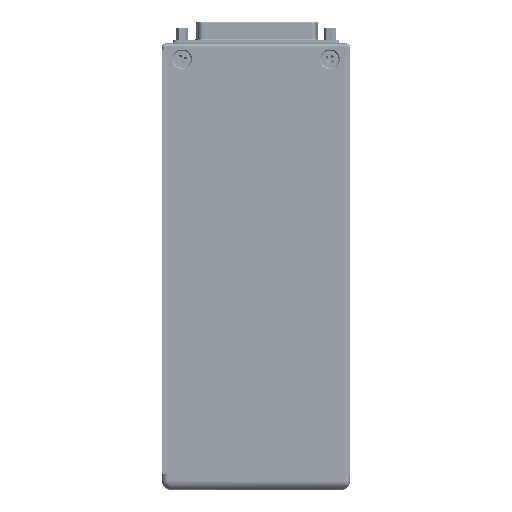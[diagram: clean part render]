
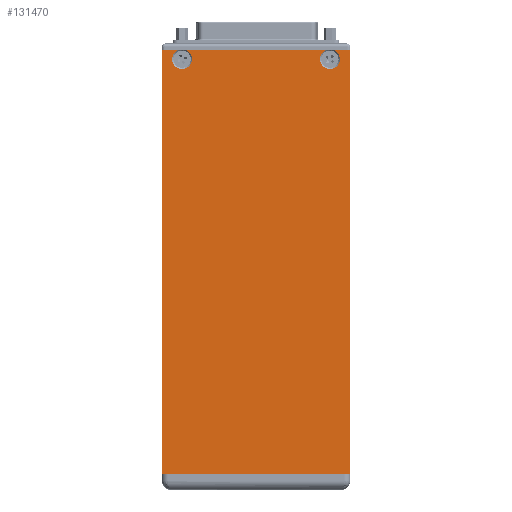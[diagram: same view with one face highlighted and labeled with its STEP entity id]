
A CAD part, front view. The second image highlights one B-rep face of the part: STEP entity #131470.
In plain terms, the highlighted planar face has unit normal (0, -1, 0).
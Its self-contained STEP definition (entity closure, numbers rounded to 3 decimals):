
#855 = DIRECTION ( 'NONE',  ( 0., 1., 0. ) ) ;
#1246 = ORIENTED_EDGE ( 'NONE', *, *, #323080, .T. ) ;
#5818 = EDGE_CURVE ( 'NONE', #122456, #293544, #230319, .T. ) ;
#13270 = CARTESIAN_POINT ( 'NONE',  ( 23.5, -10., -3. ) ) ;
#15506 = DIRECTION ( 'NONE',  ( 0., 1., 0. ) ) ;
#16522 = CARTESIAN_POINT ( 'NONE',  ( -30., -10., -135. ) ) ;
#19495 = CARTESIAN_POINT ( 'NONE',  ( -30., -10., 0. ) ) ;
#22818 = ORIENTED_EDGE ( 'NONE', *, *, #188750, .T. ) ;
#23952 = DIRECTION ( 'NONE',  ( -1., 0., 0. ) ) ;
#31147 = EDGE_LOOP ( 'NONE', ( #215637, #146915, #1246, #264074, #271210, #22818, #292177, #241371, #93010, #183903 ) ) ;
#36172 = CARTESIAN_POINT ( 'NONE',  ( -23.5, -10., -3. ) ) ;
#37648 = CIRCLE ( 'NONE', #329702, 3.15 ) ;
#40105 = CIRCLE ( 'NONE', #120653, 3.15 ) ;
#40615 = CARTESIAN_POINT ( 'NONE',  ( 24.46, -10., 0. ) ) ;
#43380 = DIRECTION ( 'NONE',  ( 0., 1., 0. ) ) ;
#44368 = DIRECTION ( 'NONE',  ( 0., 0., -1. ) ) ;
#50013 = DIRECTION ( 'NONE',  ( 0., 0., -1. ) ) ;
#58246 = EDGE_CURVE ( 'NONE', #303286, #73529, #306697, .T. ) ;
#63504 = CARTESIAN_POINT ( 'NONE',  ( -30., -10., 0. ) ) ;
#66874 = CARTESIAN_POINT ( 'NONE',  ( -30., -10., -135. ) ) ;
#67368 = EDGE_CURVE ( 'NONE', #211682, #206394, #40105, .T. ) ;
#68338 = VERTEX_POINT ( 'NONE', #328501 ) ;
#71205 = CARTESIAN_POINT ( 'NONE',  ( -24.46, -10., 0. ) ) ;
#73529 = VERTEX_POINT ( 'NONE', #40615 ) ;
#75231 = CARTESIAN_POINT ( 'NONE',  ( -22.54, -10., 0. ) ) ;
#78028 = CARTESIAN_POINT ( 'NONE',  ( 23.5, -10., -6.15 ) ) ;
#86186 = FACE_OUTER_BOUND ( 'NONE', #31147, .T. ) ;
#86287 = VERTEX_POINT ( 'NONE', #63504 ) ;
#93010 = ORIENTED_EDGE ( 'NONE', *, *, #142050, .T. ) ;
#96862 = CARTESIAN_POINT ( 'NONE',  ( -30., -10., 0. ) ) ;
#99401 = CARTESIAN_POINT ( 'NONE',  ( 30., -10., 0. ) ) ;
#105147 = DIRECTION ( 'NONE',  ( 0., 0., -1. ) ) ;
#105534 = AXIS2_PLACEMENT_3D ( 'NONE', #204988, #855, #105147 ) ;
#116152 = VECTOR ( 'NONE', #23952, 1000. ) ;
#118708 = DIRECTION ( 'NONE',  ( 0., 0., -1. ) ) ;
#120653 = AXIS2_PLACEMENT_3D ( 'NONE', #36172, #242612, #190992 ) ;
#122456 = VERTEX_POINT ( 'NONE', #16522 ) ;
#123192 = AXIS2_PLACEMENT_3D ( 'NONE', #66874, #171241, #44368 ) ;
#123381 = CARTESIAN_POINT ( 'NONE',  ( -30., -10., -135. ) ) ;
#124425 = VERTEX_POINT ( 'NONE', #71205 ) ;
#127138 = DIRECTION ( 'NONE',  ( -1., 0., 0. ) ) ;
#131470 = ADVANCED_FACE ( 'NONE', ( #86186 ), #220438, .T. ) ;
#138367 = CARTESIAN_POINT ( 'NONE',  ( -23.5, -10., -6.15 ) ) ;
#142050 = EDGE_CURVE ( 'NONE', #293544, #303286, #157631, .T. ) ;
#142187 = VECTOR ( 'NONE', #298830, 1000. ) ;
#144390 = CARTESIAN_POINT ( 'NONE',  ( -23.5, -10., -3. ) ) ;
#146915 = ORIENTED_EDGE ( 'NONE', *, *, #148081, .T. ) ;
#148081 = EDGE_CURVE ( 'NONE', #295236, #68338, #317253, .T. ) ;
#157631 = LINE ( 'NONE', #279493, #213556 ) ;
#161494 = CARTESIAN_POINT ( 'NONE',  ( -30., -10., -135. ) ) ;
#171241 = DIRECTION ( 'NONE',  ( 0., -1., 0. ) ) ;
#177646 = CARTESIAN_POINT ( 'NONE',  ( -30., -10., 0. ) ) ;
#183903 = ORIENTED_EDGE ( 'NONE', *, *, #58246, .T. ) ;
#187297 = EDGE_CURVE ( 'NONE', #86287, #122456, #210247, .T. ) ;
#188750 = EDGE_CURVE ( 'NONE', #124425, #86287, #205685, .T. ) ;
#190992 = DIRECTION ( 'NONE',  ( 0., 0., -1. ) ) ;
#200424 = LINE ( 'NONE', #177646, #116152 ) ;
#202186 = VECTOR ( 'NONE', #241044, 1000. ) ;
#203183 = DIRECTION ( 'NONE',  ( 0., 0., 1. ) ) ;
#204988 = CARTESIAN_POINT ( 'NONE',  ( 23.5, -10., -3. ) ) ;
#205685 = LINE ( 'NONE', #96862, #281976 ) ;
#206394 = VERTEX_POINT ( 'NONE', #138367 ) ;
#210247 = LINE ( 'NONE', #161494, #202186 ) ;
#211682 = VERTEX_POINT ( 'NONE', #75231 ) ;
#211872 = CARTESIAN_POINT ( 'NONE',  ( 30., -10., -135. ) ) ;
#213556 = VECTOR ( 'NONE', #203183, 1000. ) ;
#215637 = ORIENTED_EDGE ( 'NONE', *, *, #280464, .T. ) ;
#220438 = PLANE ( 'NONE',  #123192 ) ;
#225840 = EDGE_CURVE ( 'NONE', #206394, #124425, #37648, .T. ) ;
#229730 = DIRECTION ( 'NONE',  ( 1., 0., 0. ) ) ;
#230319 = LINE ( 'NONE', #123381, #250286 ) ;
#231121 = AXIS2_PLACEMENT_3D ( 'NONE', #13270, #15506, #118708 ) ;
#234726 = CIRCLE ( 'NONE', #231121, 3.15 ) ;
#241044 = DIRECTION ( 'NONE',  ( 0., 0., -1. ) ) ;
#241371 = ORIENTED_EDGE ( 'NONE', *, *, #5818, .T. ) ;
#242612 = DIRECTION ( 'NONE',  ( 0., 1., 0. ) ) ;
#250286 = VECTOR ( 'NONE', #229730, 1000. ) ;
#264074 = ORIENTED_EDGE ( 'NONE', *, *, #67368, .T. ) ;
#271210 = ORIENTED_EDGE ( 'NONE', *, *, #225840, .T. ) ;
#279493 = CARTESIAN_POINT ( 'NONE',  ( 30., -10., -135. ) ) ;
#280464 = EDGE_CURVE ( 'NONE', #73529, #295236, #234726, .T. ) ;
#281976 = VECTOR ( 'NONE', #127138, 1000. ) ;
#292177 = ORIENTED_EDGE ( 'NONE', *, *, #187297, .T. ) ;
#293544 = VERTEX_POINT ( 'NONE', #211872 ) ;
#295236 = VERTEX_POINT ( 'NONE', #78028 ) ;
#298830 = DIRECTION ( 'NONE',  ( -1., 0., 0. ) ) ;
#303286 = VERTEX_POINT ( 'NONE', #99401 ) ;
#306697 = LINE ( 'NONE', #19495, #142187 ) ;
#317253 = CIRCLE ( 'NONE', #105534, 3.15 ) ;
#323080 = EDGE_CURVE ( 'NONE', #68338, #211682, #200424, .T. ) ;
#328501 = CARTESIAN_POINT ( 'NONE',  ( 22.54, -10., 0. ) ) ;
#329702 = AXIS2_PLACEMENT_3D ( 'NONE', #144390, #43380, #50013 ) ;
